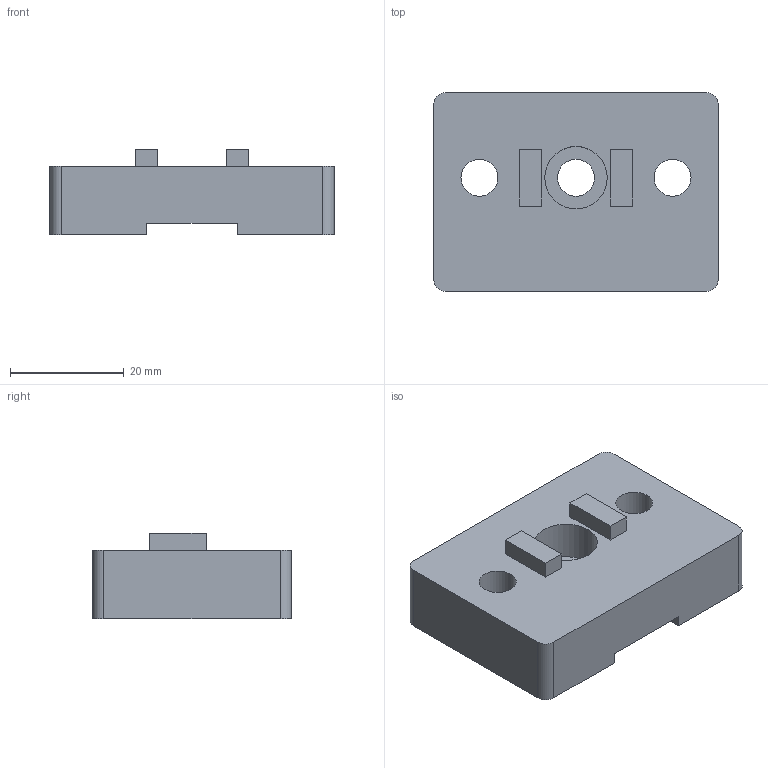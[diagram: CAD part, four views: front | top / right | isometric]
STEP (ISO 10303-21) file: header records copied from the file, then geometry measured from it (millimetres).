
FILE_DESCRIPTION(('STEP AP203'), '1');
FILE_NAME('ÒÏÏÔ1801.01.03.00.015 - Ïëàòèê ðåáðà', '', ('UNSPECIFIED'), ('UNSPECIFIED'), 'C3D Converter', 'C3D Toolkit', '');
FILE_SCHEMA(('CONFIG_CONTROL_DESIGN'));
Length unit declared in the file: millimetre
Products named in the file (1): ТППФ1801.01.03.00.015
Bounding box: 50 x 35 x 15 mm (x, y, z)
Volume: 17775.4 mm3; surface area: 6499.7 mm2
Topology: 1 solids, 1 shells, 33 faces, 78 edges, 52 vertices
Faces by surface type: plane 23, cylinder 10
Full cylindrical faces by diameter (mm): 6.5 x3, 11 x3
Entity records: 1238 total; most frequent: DIRECTION 160, CARTESIAN_POINT 158, ORIENTED_EDGE 144, EDGE_CURVE 72, AXIS2_PLACEMENT_3D 54, VERTEX_POINT 52, LINE 52, VECTOR 52
